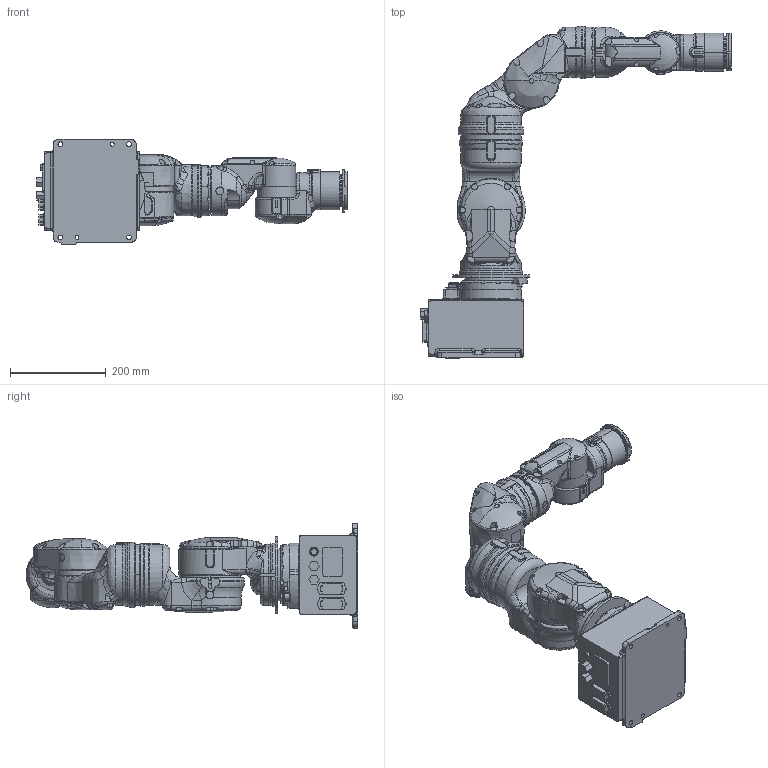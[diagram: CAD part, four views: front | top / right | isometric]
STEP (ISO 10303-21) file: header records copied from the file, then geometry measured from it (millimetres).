
FILE_DESCRIPTION(/* description */ (''),/* implementation_level */ '2;1');
FILE_NAME(/* name */ 'SIA5F.stp',/* time_stamp */ '2012-08-10T19:34:15+02:00',/* author */ (''),/* organization */ (''),/* preprocessor_version */ 'ST-DEVELOPER v11',/* originating_system */ 'SIEMENS UGS NX 6.0',/* authorisation */ '');
FILE_SCHEMA (('AUTOMOTIVE_DESIGN { 1 0 10303 214 1 1 1 1 }'));
Products named in the file (9): BASE; S_AXIS; L_AXIS; E_AXIS; U_AXIS; R_AXIS; B_AXIS; T_AXIS; SIA5F
Assembly tree (8 placements, depth 2):
  SIA5F
    T_AXIS
    B_AXIS
    R_AXIS
    U_AXIS
    E_AXIS
    L_AXIS
    S_AXIS
    BASE
Bounding box: 650.1 x 694.5 x 220 mm (x, y, z)
Volume: 14158000.3 mm3; surface area: 793638.2 mm2
Topology: 8 solids, 8 shells, 2113 faces, 5386 edges, 3394 vertices
Faces by surface type: bspline 748, plane 618, cylinder 519, cone 115, torus 95, sphere 18
Entity records: 105171 total; most frequent: CARTESIAN_POINT 58455, ORIENTED_EDGE 10768, DIRECTION 7278, EDGE_CURVE 5384, VERTEX_POINT 3394, AXIS2_PLACEMENT_3D 2776, EDGE_LOOP 2242, B_SPLINE_CURVE_WITH_KNOTS 2158
